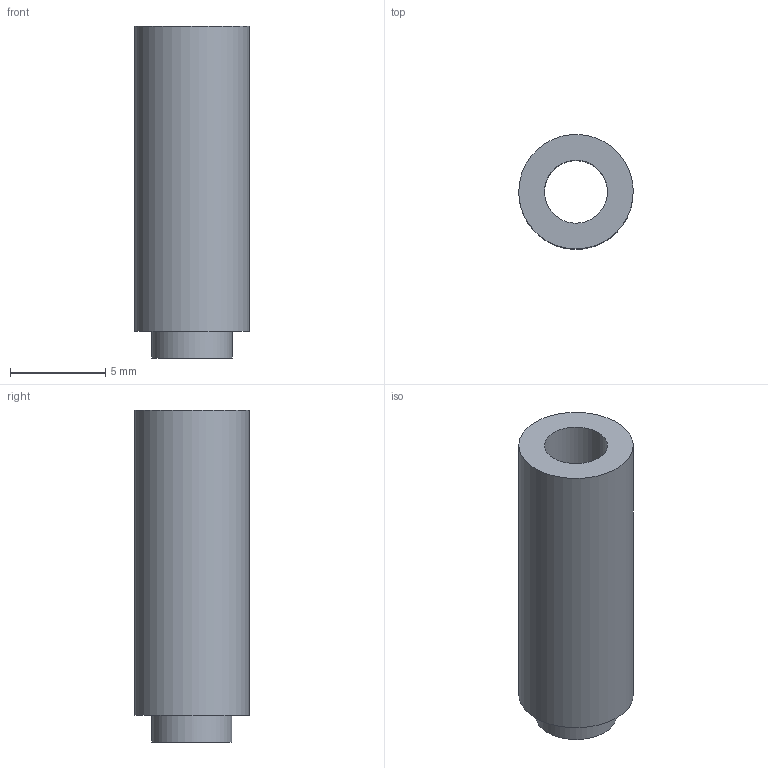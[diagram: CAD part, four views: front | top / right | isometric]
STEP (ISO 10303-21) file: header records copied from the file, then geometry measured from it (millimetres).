
FILE_DESCRIPTION(('FreeCAD Model'),'2;1');
FILE_NAME('Open CASCADE Shape Model','2026-03-20T17:23:30',('Author'),( ''),'Open CASCADE STEP processor 7.8','FreeCAD','Unknown');
FILE_SCHEMA(('AP242_MANAGED_MODEL_BASED_3D_ENGINEERING_MIM_LF. {1 0 10303 442 1 1 4 }'));
Length unit declared in the file: millimetre
Products named in the file (1): 9774160960_transformed
Bounding box: 6 x 5.99 x 17.4 mm (x, y, z)
Volume: 325.7 mm3; surface area: 541.2 mm2
Topology: 1 solids, 1 shells, 6 faces, 9 edges, 6 vertices
Faces by surface type: bspline 6
Entity records: 201 total; most frequent: CARTESIAN_POINT 109, ORIENTED_EDGE 18, FACE_BOUND 9, EDGE_LOOP 9, EDGE_CURVE 9, ADVANCED_FACE 6, VERTEX_POINT 6, B_SPLINE_SURFACE_WITH_KNOTS 3
